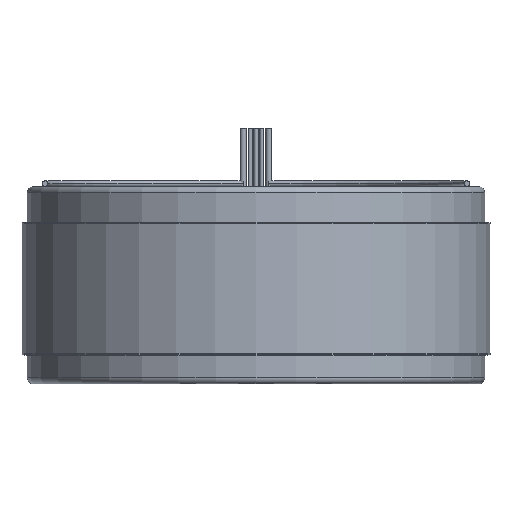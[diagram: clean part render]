
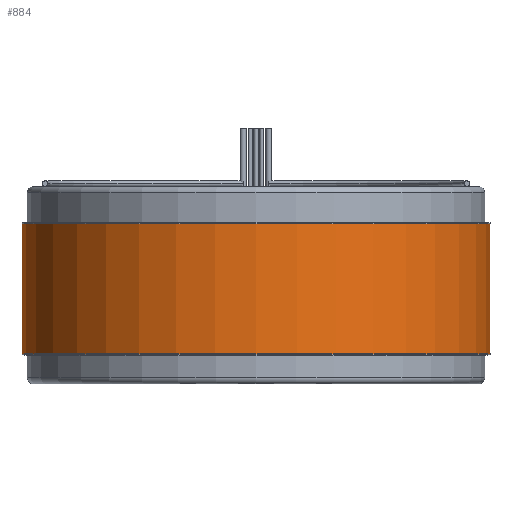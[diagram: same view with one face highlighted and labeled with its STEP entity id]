
A CAD part, front view. The second image highlights one B-rep face of the part: STEP entity #884.
In plain terms, the highlighted cylindrical face has radius 101.6 mm (diameter 203.2 mm), a partial arc.
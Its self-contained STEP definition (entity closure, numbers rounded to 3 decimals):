
#17 = DIRECTION ( 'NONE',  ( 0., 0., -1. ) ) ;
#22 = CARTESIAN_POINT ( 'NONE',  ( 0., 0., 28.219 ) ) ;
#46 = VERTEX_POINT ( 'NONE', #623 ) ;
#55 = VECTOR ( 'NONE', #1489, 1000. ) ;
#100 = CIRCLE ( 'NONE', #1923, 101.6 ) ;
#111 = CARTESIAN_POINT ( 'NONE',  ( 101.6, 0., 28.219 ) ) ;
#145 = CARTESIAN_POINT ( 'NONE',  ( 0., 0., -28.219 ) ) ;
#263 = DIRECTION ( 'NONE',  ( -1., 0., 0. ) ) ;
#375 = CARTESIAN_POINT ( 'NONE',  ( 101.6, 0., 28.219 ) ) ;
#598 = EDGE_CURVE ( 'NONE', #1902, #1650, #2041, .T. ) ;
#623 = CARTESIAN_POINT ( 'NONE',  ( -101.6, 0., 28.219 ) ) ;
#630 = ORIENTED_EDGE ( 'NONE', *, *, #2150, .T. ) ;
#721 = CARTESIAN_POINT ( 'NONE',  ( -101.6, 0., -28.219 ) ) ;
#762 = DIRECTION ( 'NONE',  ( 0., 0., 1. ) ) ;
#854 = ORIENTED_EDGE ( 'NONE', *, *, #2057, .F. ) ;
#883 = DIRECTION ( 'NONE',  ( 0., 0., 1. ) ) ;
#884 = ADVANCED_FACE ( 'NONE', ( #2799 ), #1033, .T. ) ;
#1033 = CYLINDRICAL_SURFACE ( 'NONE', #1823, 101.6 ) ;
#1035 = CARTESIAN_POINT ( 'NONE',  ( 101.6, 0., -28.219 ) ) ;
#1101 = DIRECTION ( 'NONE',  ( 0., 0., -1. ) ) ;
#1228 = CARTESIAN_POINT ( 'NONE',  ( -101.6, 0., 28.219 ) ) ;
#1452 = EDGE_LOOP ( 'NONE', ( #1925, #854, #630, #2013 ) ) ;
#1489 = DIRECTION ( 'NONE',  ( 0., 0., -1. ) ) ;
#1650 = VERTEX_POINT ( 'NONE', #1035 ) ;
#1707 = DIRECTION ( 'NONE',  ( 1., 0., 0. ) ) ;
#1772 = AXIS2_PLACEMENT_3D ( 'NONE', #145, #883, #2796 ) ;
#1823 = AXIS2_PLACEMENT_3D ( 'NONE', #2643, #17, #263 ) ;
#1902 = VERTEX_POINT ( 'NONE', #111 ) ;
#1923 = AXIS2_PLACEMENT_3D ( 'NONE', #22, #762, #1707 ) ;
#1925 = ORIENTED_EDGE ( 'NONE', *, *, #598, .F. ) ;
#2003 = VECTOR ( 'NONE', #1101, 1000. ) ;
#2013 = ORIENTED_EDGE ( 'NONE', *, *, #2415, .T. ) ;
#2041 = LINE ( 'NONE', #375, #2003 ) ;
#2052 = LINE ( 'NONE', #1228, #55 ) ;
#2057 = EDGE_CURVE ( 'NONE', #46, #1902, #100, .T. ) ;
#2150 = EDGE_CURVE ( 'NONE', #46, #2930, #2052, .T. ) ;
#2415 = EDGE_CURVE ( 'NONE', #2930, #1650, #3030, .T. ) ;
#2643 = CARTESIAN_POINT ( 'NONE',  ( 0., 0., 28.219 ) ) ;
#2796 = DIRECTION ( 'NONE',  ( 1., 0., 0. ) ) ;
#2799 = FACE_OUTER_BOUND ( 'NONE', #1452, .T. ) ;
#2930 = VERTEX_POINT ( 'NONE', #721 ) ;
#3030 = CIRCLE ( 'NONE', #1772, 101.6 ) ;
